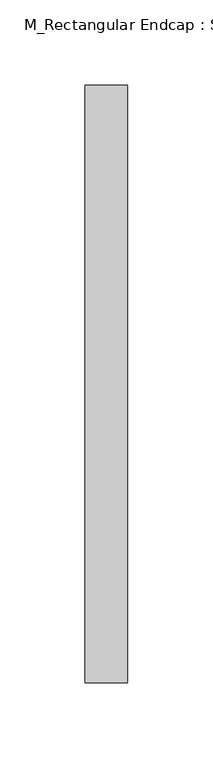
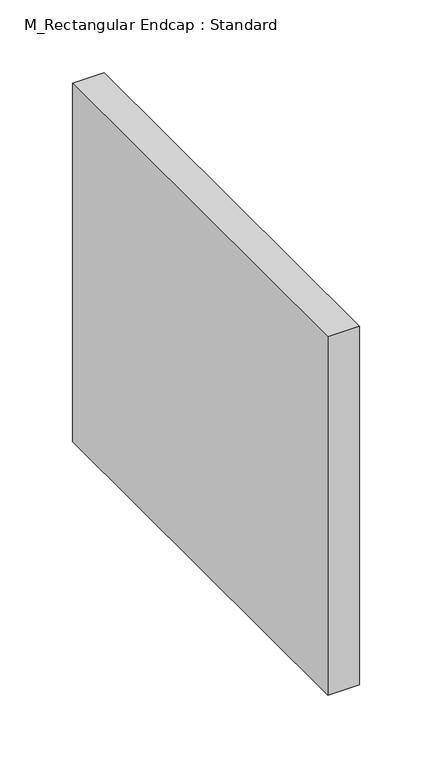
"""IFC4 building model written with IfcOpenShell, lengths in millimetres: duct fitting geometry, M_Rectangular Endcap : Standard."""

import ifcopenshell
import ifcopenshell.guid

model = None  # the IFC model being written
_history = None  # IfcOwnerHistory: only IFC2X3 demands one
_inside = {}  # id of a spatial element -> (the spatial element, [elements in it])
_under = {}  # id of a project, library or spatial element -> (it, [spatial elements below it])
_declared = {}  # id of a project -> (the project, [libraries it declares])
_typed = {}  # id of a type object -> (the type object, [elements of that type])
_made_of = {}  # id of a material, layer set ... -> (it, [elements and type objects made of it])


def new_model(schema):
    """Start an empty IFC model of exactly this schema.

    Asked for "IFC4X3", IfcOpenShell would pick the latest addendum, in which some entities
    have other attributes; the version numbers below select the first issue.
    IFC2X3 requires an IfcOwnerHistory on every rooted entity: one is made here for all.
    """
    global model, _history
    if schema == "IFC4X3":
        model = ifcopenshell.file(schema_version=(4, 3, 0, 0))
    else:
        model = ifcopenshell.file(schema=schema)
    _inside.clear()
    _under.clear()
    _declared.clear()
    _typed.clear()
    _made_of.clear()
    _history = None
    if model.schema == "IFC2X3":
        org = make("IfcOrganization", Name="unknown")
        user = make(
            "IfcPersonAndOrganization",
            ThePerson=make("IfcPerson", FamilyName="unknown"),
            TheOrganization=org,
        )
        app = make(
            "IfcApplication",
            ApplicationDeveloper=org,
            Version="unknown",
            ApplicationFullName="unknown",
            ApplicationIdentifier="unknown",
        )
        _history = make(
            "IfcOwnerHistory",
            OwningUser=user,
            OwningApplication=app,
            ChangeAction="ADDED",
            CreationDate=0,
        )
    return model


def make(cls, **values):
    """One entity of the class cls with the attributes given. An attribute that is None is left unset."""
    return model.create_entity(
        cls, **{name: value for name, value in values.items() if value is not None}
    )


def rooted(cls, **values):
    """An entity with a GlobalId (a new one), such as an element, a storey or a relation."""
    return make(cls, GlobalId=ifcopenshell.guid.new(), OwnerHistory=_history, **values)


def si_unit(unit_type, name, prefix=None):
    """IfcSIUnit, for example si_unit("LENGTHUNIT", "METRE", prefix="MILLI")."""
    return make("IfcSIUnit", UnitType=unit_type, Prefix=prefix, Name=name)


def assignment(units):
    """IfcUnitAssignment: the units of a project."""
    return None if units is None else make("IfcUnitAssignment", Units=units)


def point(xyz):
    """IfcCartesianPoint."""
    return None if xyz is None else make("IfcCartesianPoint", Coordinates=xyz)


def direction(xyz):
    """IfcDirection."""
    return None if xyz is None else make("IfcDirection", DirectionRatios=xyz)


def frame(location, z_axis=None, x_axis=None):
    """IfcAxis2Placement3D, a coordinate frame: its origin and axes. An axis left out is left unset."""
    return make(
        "IfcAxis2Placement3D",
        Location=point(location),
        Axis=direction(z_axis),
        RefDirection=direction(x_axis),
    )


def origin():
    """The frame at (0, 0, 0) with its axes left unset."""
    return frame((0.0, 0.0, 0.0))


def place(relative_to, where):
    """IfcLocalPlacement: puts the frame where relative to a parent placement (None: the world)."""
    return make(
        "IfcLocalPlacement", PlacementRelTo=relative_to, RelativePlacement=where
    )


def context(
    kind, dimensions, precision=None, world=None, true_north=None, identifier=None
):
    """IfcGeometricRepresentationContext, for example the 3D "Model" context."""
    return make(
        "IfcGeometricRepresentationContext",
        ContextIdentifier=identifier,
        ContextType=kind,
        CoordinateSpaceDimension=dimensions,
        Precision=precision,
        WorldCoordinateSystem=world,
        TrueNorth=true_north,
    )


def project(units=None, contexts=None):
    """IfcProject with its units and contexts."""
    return rooted(
        "IfcProject",
        Name="project",
        RepresentationContexts=contexts,
        UnitsInContext=assignment(units),
    )


def spatial(cls, under=None, at=None, **own):
    """A site, building, storey or space (cls), placed at a placement, below another one or the project."""
    s = rooted(cls, ObjectPlacement=at, **own)
    if under is not None:
        _under.setdefault(under.id(), (under, []))[1].append(s)
    return s


def polyline(points):
    """IfcPolyline through the points."""
    return make("IfcPolyline", Points=[point(p) for p in points])


def outline(outer, holes=None, kind="AREA"):
    """IfcArbitraryClosedProfileDef: a profile drawn as a closed curve; with holes, ...WithVoids."""
    if holes is None:
        return make("IfcArbitraryClosedProfileDef", ProfileType=kind, OuterCurve=outer)
    return make(
        "IfcArbitraryProfileDefWithVoids",
        ProfileType=kind,
        OuterCurve=outer,
        InnerCurves=holes,
    )


def extrude(swept, where, along, depth):
    """IfcExtrudedAreaSolid: the profile swept, set in the frame where, extruded along a direction by depth."""
    return make(
        "IfcExtrudedAreaSolid",
        SweptArea=swept,
        Position=where,
        ExtrudedDirection=direction(along),
        Depth=depth,
    )


def shape(context_of_items, identifier, shape_type, items):
    """IfcShapeRepresentation: the items that make up one representation, for example the "Body"."""
    return make(
        "IfcShapeRepresentation",
        ContextOfItems=context_of_items,
        RepresentationIdentifier=identifier,
        RepresentationType=shape_type,
        Items=items,
    )


def source(mapping_origin, context_of_items, identifier, shape_type, items):
    """IfcRepresentationMap: a shape defined once, which mapped items show again and again."""
    return make(
        "IfcRepresentationMap",
        MappingOrigin=mapping_origin,
        MappedRepresentation=shape(context_of_items, identifier, shape_type, items),
    )


def transform(
    local_origin,
    x_axis=None,
    y_axis=None,
    z_axis=None,
    scale=None,
    scale2=None,
    scale3=None,
    uniform=True,
):
    """IfcCartesianTransformationOperator3D, or its non-uniform kind. x_axis, y_axis, z_axis: its Axis1, 2, 3."""
    if uniform:
        return make(
            "IfcCartesianTransformationOperator3D",
            Axis1=direction(x_axis),
            Axis2=direction(y_axis),
            LocalOrigin=point(local_origin),
            Scale=scale,
            Axis3=direction(z_axis),
        )
    return make(
        "IfcCartesianTransformationOperator3DnonUniform",
        Axis1=direction(x_axis),
        Axis2=direction(y_axis),
        LocalOrigin=point(local_origin),
        Scale=scale,
        Axis3=direction(z_axis),
        Scale2=scale2,
        Scale3=scale3,
    )


def mapped(mapping_source, mapping_target):
    """IfcMappedItem: shows the shape of a source again, moved by a transform."""
    return make(
        "IfcMappedItem", MappingSource=mapping_source, MappingTarget=mapping_target
    )


def made_of(thing, what):
    """Note that an element or type object is made of a material, layer set ...; save() writes the relation."""
    if what is not None:
        _made_of.setdefault(what.id(), (what, []))[1].append(thing)
    return thing


def element(
    cls,
    number,
    at=None,
    inside=None,
    cuts=None,
    type_object=None,
    material=None,
    context=None,
    identifier="Body",
    shape_type=None,
    held_by="IfcProductDefinitionShape",
    body=None,
    shapes=None,
    **own,
):
    """One element of the class cls, such as IfcWall. Its Tag is "e" and its number.

    at: its placement. inside: the storey or other place that contains it. cuts: it is an
    opening in that element (IfcRelVoidsElement). A single representation is given by context,
    identifier, shape_type and body (its items); several are given by shapes. held_by: the class
    of the entity that holds the representations. save() writes the other relations.
    """
    e = rooted(cls, Tag="e%d" % number, ObjectPlacement=at, **own)
    if body is not None:
        shapes = [shape(context, identifier, shape_type, body)]
    if shapes is not None:
        e.Representation = make(held_by, Representations=shapes)
    if inside is not None:
        _inside.setdefault(inside.id(), (inside, []))[1].append(e)
    if cuts is not None:
        rooted(
            "IfcRelVoidsElement", RelatingBuildingElement=cuts, RelatedOpeningElement=e
        )
    if type_object is not None:
        _typed.setdefault(type_object.id(), (type_object, []))[1].append(e)
    return made_of(e, material)


def aggregate(whole, parts):
    """IfcRelAggregates: a whole, such as a stair, and the parts it consists of."""
    return rooted("IfcRelAggregates", RelatingObject=whole, RelatedObjects=parts)


def save(model, path):
    """Write the relations noted so far, then the file.

    IfcRelAggregates (storeys below a building ...), IfcRelContainedInSpatialStructure (elements
    in a storey), IfcRelDefinesByType, IfcRelAssociatesMaterial and IfcRelDeclares: one each for
    every whole, place, type object, material and project.
    """
    for whole, parts in _under.values():
        aggregate(whole, parts)
    for where, things in _inside.values():
        rooted(
            "IfcRelContainedInSpatialStructure",
            RelatedElements=things,
            RelatingStructure=where,
        )
    for kind, things in _typed.values():
        rooted("IfcRelDefinesByType", RelatedObjects=things, RelatingType=kind)
    for what, things in _made_of.values():
        rooted("IfcRelAssociatesMaterial", RelatedObjects=things, RelatingMaterial=what)
    for by, libraries in _declared.values():
        rooted("IfcRelDeclares", RelatingContext=by, RelatedDefinitions=libraries)
    model.write(path)


def m_rectangular_endcap_standard_7e805889(model_context):
    return source(origin(), model_context, "Body", "SweptSolid", [
        extrude(outline(polyline([(0.0, -175.0), (0.0, 175.0), (25.0, 175.0), (25.0, -175.0), (0.0, -175.0)])), frame((0.0, 0.0, -150.0), z_axis=(0.0, 0.0, 1.0), x_axis=(1.0, 0.0, 0.0)), (0.0, 0.0, 1.0), 300.0),
        extrude(outline(polyline([(0.0, -175.0), (0.0, 175.0), (25.0, 175.0), (25.0, -175.0), (0.0, -175.0)])), frame((0.0, 0.0, -150.0), z_axis=(0.0, 0.0, 1.0), x_axis=(1.0, 0.0, 0.0)), (0.0, 0.0, 1.0), 300.0),
        extrude(outline(polyline([(0.0, -175.0), (0.0, 175.0), (25.0, 175.0), (25.0, -175.0), (0.0, -175.0)])), frame((0.0, 0.0, -150.0), z_axis=(0.0, 0.0, 1.0), x_axis=(1.0, 0.0, 0.0)), (0.0, 0.0, 1.0), 300.0),
    ])


if __name__ == "__main__":
    model = new_model("IFC4")
    model_context = context("Model", 3, world=origin())
    ifc_project = project(units=[si_unit("LENGTHUNIT", "METRE", prefix="MILLI")], contexts=[model_context])
    site = spatial("IfcSite", under=ifc_project)
    building = spatial("IfcBuilding", under=site)
    placement = place(None, origin())
    m_rectangular_endcap_standard_shape = m_rectangular_endcap_standard_7e805889(model_context)
    element("IfcDuctFitting", 1, ObjectType="M_Rectangular Endcap : Standard", at=placement, inside=building, context=model_context, shape_type="MappedRepresentation", body=[
        mapped(m_rectangular_endcap_standard_shape, transform((0.0, 0.0, 0.0), x_axis=(1.0, 0.0, 0.0), y_axis=(0.0, 1.0, 0.0), z_axis=(0.0, 0.0, 1.0))),
    ])
    save(model, "model.ifc")
